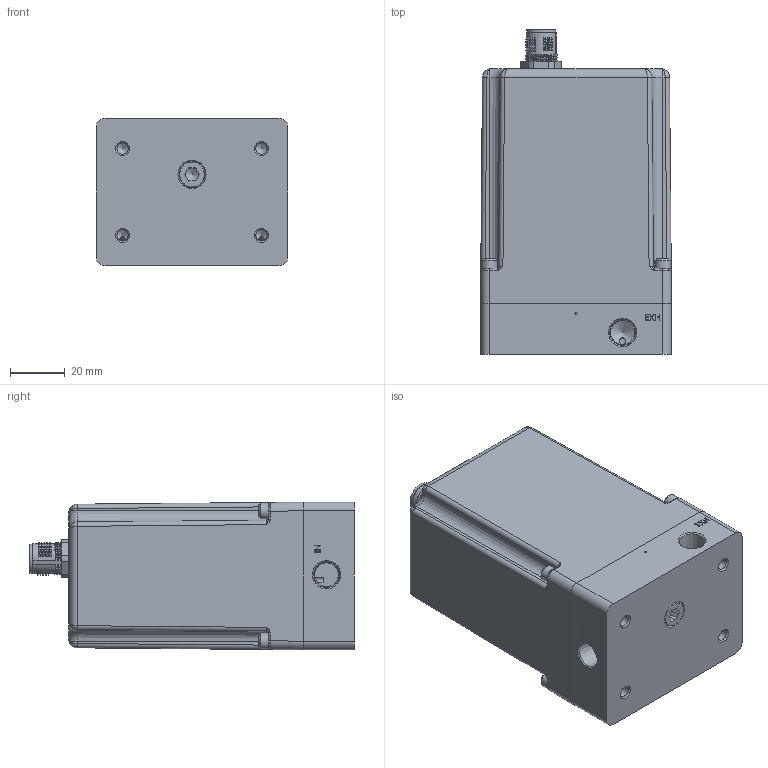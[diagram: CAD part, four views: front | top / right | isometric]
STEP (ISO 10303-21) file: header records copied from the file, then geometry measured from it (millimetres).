
FILE_DESCRIPTION(/* description */ (''),/* implementation_level */ '2;1');
FILE_NAME(/* name */ 'C:\Users\ttang\Equilibar Network Dropbox\Models\Other\Clippard\EHP (Generic).stp',/* time_stamp */ '2022-05-18T11:40:01-04:00',/* author */ ('ttang'),/* organization */ ('TraceParts S.A.'),/* preprocessor_version */ 'ST-DEVELOPER v18.1',/* originating_system */ 'Autodesk Inventor 2021',/* authorisation */ '');
FILE_SCHEMA (('AUTOMOTIVE_DESIGN { 1 0 10303 214 3 1 1 }'));
Products named in the file (1): chp-hfe-2gg
Bounding box: 69.85 x 118.69 x 53.98 mm (x, y, z)
Volume: 170785.4 mm3; surface area: 111936.4 mm2
Topology: 36 solids, 37 shells, 4053 faces, 10617 edges, 6804 vertices
Faces by surface type: plane 2097, cylinder 817, cone 523, bspline 438, torus 151, sphere 27
Full cylindrical faces by diameter (mm): 0.6 x8, 0.635 x8, 0.7 x8, 0.762 x1, 0.794 x1, 0.8 x8, 1.016 x4, 1.1 x4, 1.3 x8, 1.397 x3, 1.587 x2, 1.8 x1, 2 x2, 2.02 x18, 2.261 x2, 2.38 x2, 2.381 x4, 2.705 x4, 2.845 x16, 2.946 x2, 3 x1, 3.175 x1, 3.264 x6, 3.3 x1, 3.302 x1, 3.505 x4, 3.556 x1, 3.708 x4, 3.988 x9, 4 x1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
Entity records: 155102 total; most frequent: CARTESIAN_POINT 53571, ORIENTED_EDGE 21046, DIRECTION 19344, EDGE_CURVE 10523, VERTEX_POINT 6804, LINE 6564, VECTOR 6564, AXIS2_PLACEMENT_3D 6390
